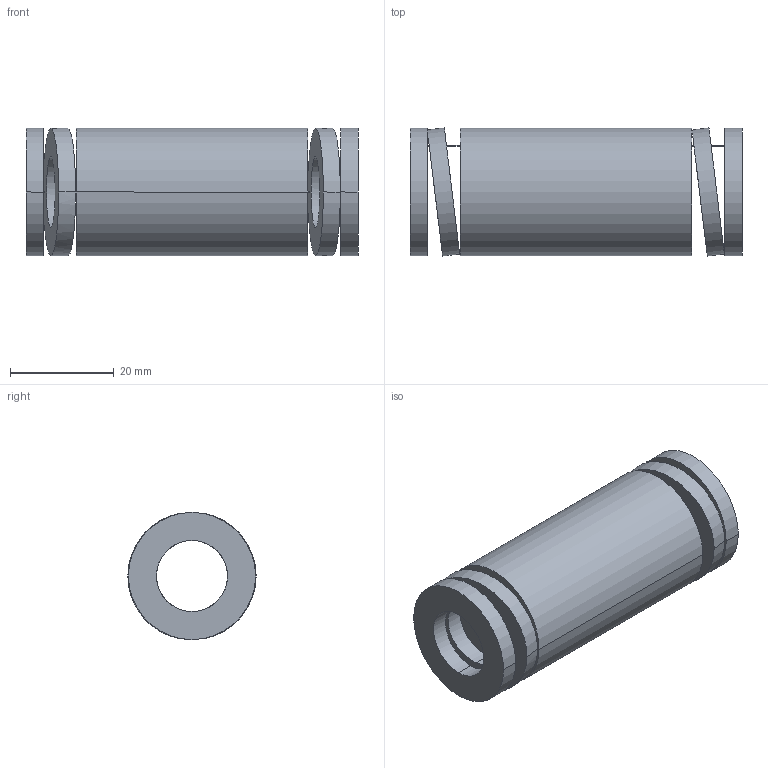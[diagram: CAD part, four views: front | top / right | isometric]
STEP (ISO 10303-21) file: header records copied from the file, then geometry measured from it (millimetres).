
FILE_DESCRIPTION(('CATIA V5 STEP Exchange'),'2;1');
FILE_NAME('C:\Users\Utente\Desktop\IO LAVORO\3D X SITO CF\X SITO\3D files 392B\392-B25-064.stp','2021-08-13T07:48:41+00:00',('none'),('none'),'CATIA Version 5 Release 20 GA (IN-10)','CATIA V5 STEP AP203','none');
FILE_SCHEMA(('CONFIG_CONTROL_DESIGN'));
Length unit declared in the file: millimetre
Products named in the file (1): 392-B25-064
Bounding box: 64 x 24.72 x 24.5 mm (x, y, z)
Volume: 18736 mm3; surface area: 10183.4 mm2
Topology: 1 solids, 1 shells, 38 faces, 92 edges, 64 vertices
Faces by surface type: cylinder 28, plane 10
Entity records: 1590 total; most frequent: CARTESIAN_POINT 705, ORIENTED_EDGE 184, DIRECTION 127, EDGE_CURVE 92, VERTEX_POINT 64, AXIS2_PLACEMENT_3D 62, EDGE_LOOP 56, B_SPLINE_CURVE_WITH_KNOTS 41
